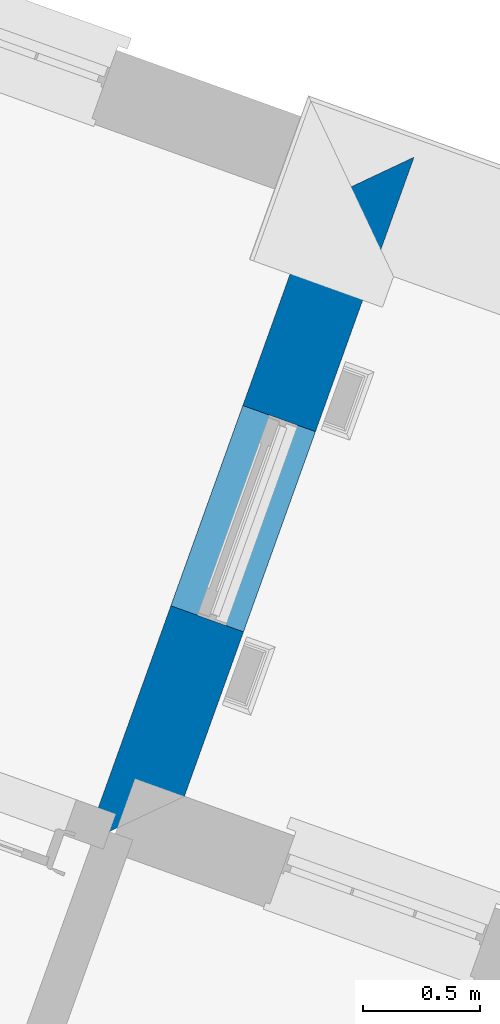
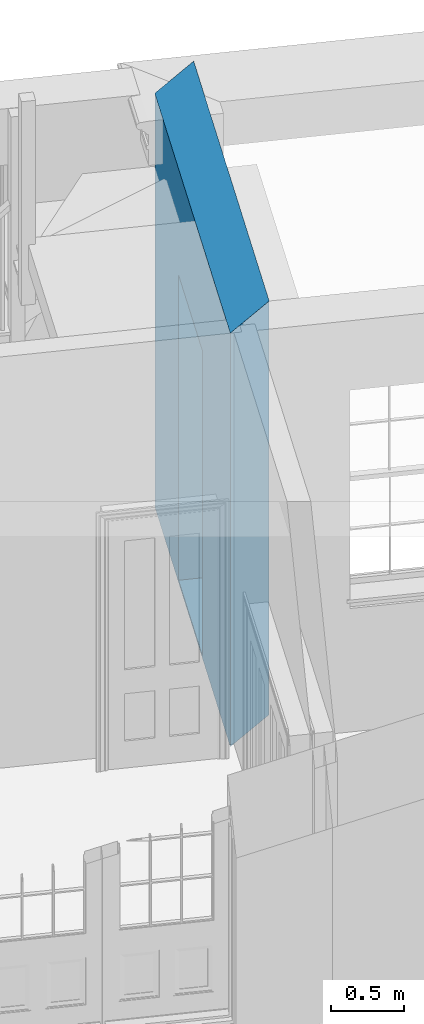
# One storey, part 6 of 8: 1 wall, 1 opening.
"""IFC4 building model written with IfcOpenShell, lengths in metres."""

from ifc_helpers import new_model, si_unit, frame, origin_with_axes, place, context, subcontext, project, spatial, polyline, outline, extrude, material, layer, layer_set, layer_usage, type_object, element, save


model = new_model("IFC4")

# Units and contexts
model_context = context("Model", 3, world=origin_with_axes())
body_context = subcontext(model_context, "Body", "Model", "MODEL_VIEW")
ifc_project = project(units=[si_unit("PLANEANGLEUNIT", "RADIAN"), si_unit("MASSUNIT", "GRAM", prefix="KILO"), si_unit("FORCEUNIT", "NEWTON", prefix="KILO"), si_unit("LENGTHUNIT", "METRE"), si_unit("AREAUNIT", "SQUARE_METRE"), si_unit("VOLUMEUNIT", "CUBIC_METRE")], contexts=[model_context, model_context])

# Sites, building, storey
site_1_placement = place(None, origin_with_axes())
site_1 = spatial("IfcSite", under=ifc_project, at=site_1_placement, Name="Tamar")
site_2_placement = place(site_1_placement, origin_with_axes())
site_2 = spatial("IfcSite", under=site_1, at=site_2_placement, Name="Site plot-25", CompositionType="ELEMENT")
building_placement = place(None, origin_with_axes())
building = spatial("IfcBuilding", under=site_2, at=building_placement, Name="Building plot-25", CompositionType="ELEMENT")
storey_placement = place(None, frame((0.0, 0.0, 26.0), z_axis=(0.0, 0.0, 1.0), x_axis=(1.0, 0.0, 0.0)))
storey = spatial("IfcBuildingStorey", under=building, at=storey_placement, Name="plot-25 0", CompositionType="ELEMENT", Elevation=26.0)

# Wall, opening
ifc_material = material(Name="Masonry")
ifc_layer = layer(ifc_material, 0.33, ventilated=False)
ifc_layer_set = layer_set([ifc_layer], Name="exterior_0.08_0.25")
ifc_layer_usage = layer_usage(ifc_layer_set, "AXIS2", "POSITIVE", -0.25)
wall_type = type_object("IfcWallType", Name="exterior_0.08_0.25", PredefinedType="SOLIDWALL", material=ifc_layer_set)
wall_placement = place(storey_placement, frame((278.265727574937, 274.009817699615, 0.0), z_axis=(0.0, 0.0, 1.0), x_axis=(0.338164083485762, 0.94108716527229, 0.0)))
wall = element("IfcWall", 1, at=wall_placement, inside=storey, type_object=wall_type, material=ifc_layer_usage, Name="exterior", context=body_context, shape_type="SweptSolid", body=[
    extrude(outline(polyline([(-0.0799999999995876, 0.0800000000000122), (0.249999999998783, -0.250000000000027), (3.15419198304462, -0.250000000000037), (2.82419198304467, 0.0800000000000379), (-0.0799999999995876, 0.0800000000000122)])), origin_with_axes(), (0.0, 0.0, 1.0), 3.45),
])
opening_placement = place(wall_placement, frame((0.997095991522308, 0.0, 0.0199999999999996)))
element("IfcOpeningElement", 2, at=opening_placement, cuts=wall, Name="My Opening", ObjectType="Opening", context=body_context, shape_type="SweptSolid", body=[
    extrude(outline(polyline([(0.0, -0.269999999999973), (0.910000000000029, -0.270000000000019), (0.910000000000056, 1.09999999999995), (2.77555756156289e-14, 1.1), (0.0, -0.269999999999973)])), origin_with_axes(), (0.0, 0.0, 1.0), 2.545),
])

save(model, "model.ifc")
